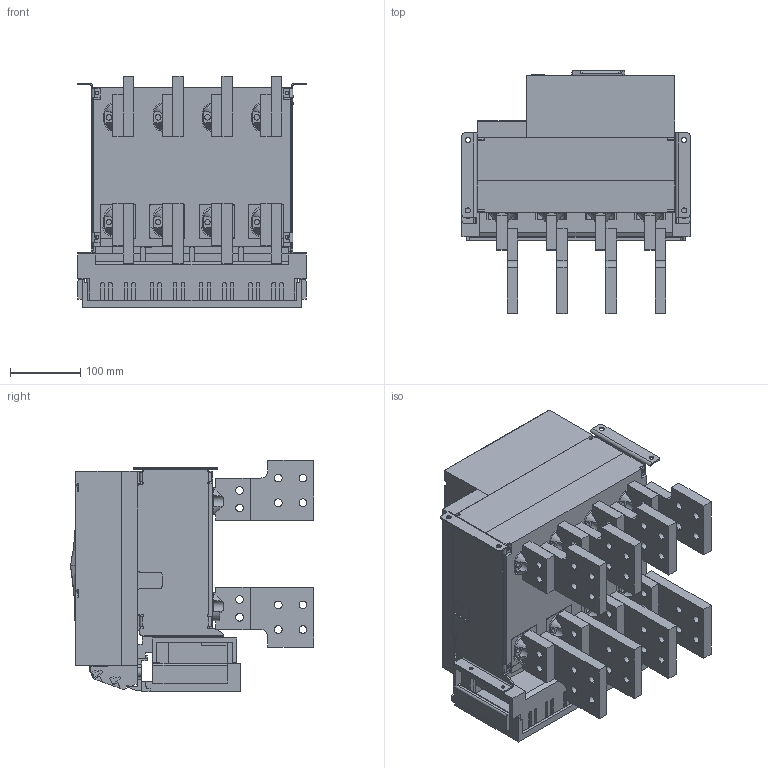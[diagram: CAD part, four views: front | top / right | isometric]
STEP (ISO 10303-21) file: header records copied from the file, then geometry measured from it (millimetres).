
FILE_DESCRIPTION((''),'2;1');
FILE_NAME('NA8G-1600-1600-F-4P-V_ASM','2019-06-03T14:27:31',('lcc'),(''),'CREO PARAMETRIC BY PTC INC, 2018020','CREO PARAMETRIC BY PTC INC, 2018020','');
FILE_SCHEMA(('CONFIG_CONTROL_DESIGN','SHAPE_APPEARANCE_LAYERS_GROUPS'));
Products named in the file (20): 1600-JIZUO-4P; 1600-DIBAN-4P; 8-050-245; 8-050-246; 8-300-162-2; 8-005-238; 8-300-163; 8-015-020; 8ZTD-064-138; 8ZTD-024-689; 8ZTD-860-511; 1600-DUANZI-CTS_ASM; 8-253-348; 8-253-349; 5-235-147; 8-253-309; 8ZTD-580-187-1; 8-211-087; 8-580-209; NA8G-1600-1600-F-4P-V_ASM
Assembly tree (49 placements, depth 3):
  NA8G-1600-1600-F-4P-V_ASM
    1600-JIZUO-4P
    1600-DIBAN-4P
    8-050-245
    8-050-246
    8-300-162-2
    8-005-238
    8-300-163
    8-015-020
    1600-DUANZI-CTS_ASM
      8ZTD-064-138
      8ZTD-024-689  x14
      8ZTD-860-511
    8-253-348
    8-253-349
    5-235-147
    8-253-309
    8ZTD-580-187-1  x8
    8-211-087  x4
    8-580-209  x8
Bounding box: 324 x 345 x 328 mm (x, y, z)
Volume: 10045353.2 mm3; surface area: 1870525.4 mm2
Topology: 48 solids, 67 shells, 5488 faces, 15246 edges, 10035 vertices
Faces by surface type: plane 4327, cylinder 1090, cone 32, torus 18, bspline 10, sphere 10, extrusion 1
Entity records: 129728 total; most frequent: CARTESIAN_POINT 18569, ORIENTED_EDGE 17104, DIRECTION 16307, PRESENTATION_STYLE_ASSIGNMENT 9094, STYLED_ITEM 9079, EDGE_CURVE 8555, CURVE_STYLE 8498, VECTOR 6979
